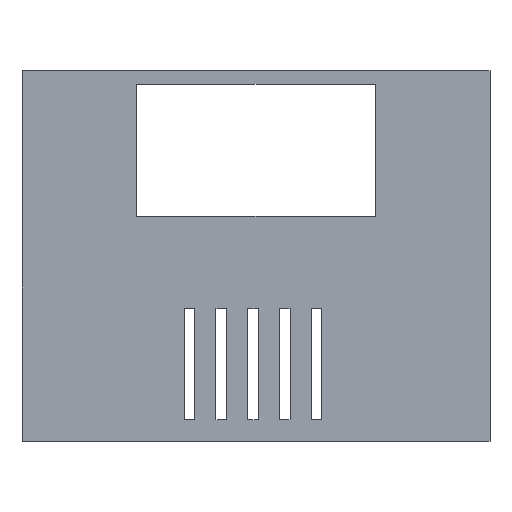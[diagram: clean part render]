
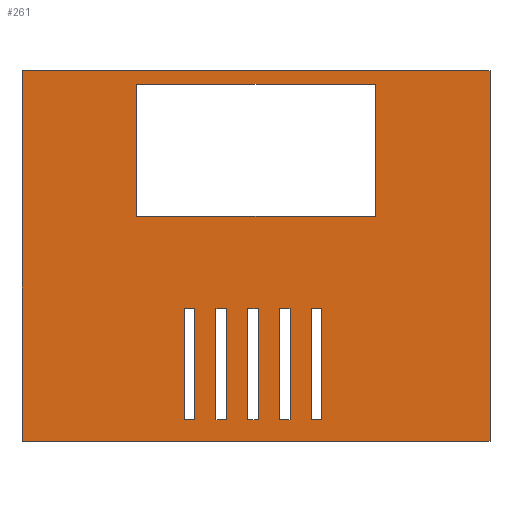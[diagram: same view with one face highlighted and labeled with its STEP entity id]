
A CAD part, top view. The second image highlights one B-rep face of the part: STEP entity #261.
In plain terms, the highlighted planar face has unit normal (0, 0, 1).
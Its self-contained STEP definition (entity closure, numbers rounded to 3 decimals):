
#61 = EDGE_CURVE('',#62,#64,#66,.T.);
#62 = VERTEX_POINT('',#63);
#63 = CARTESIAN_POINT('',(2.,21.,23.));
#64 = VERTEX_POINT('',#65);
#65 = CARTESIAN_POINT('',(2.,161.,23.));
#66 = LINE('',#67,#68);
#67 = CARTESIAN_POINT('',(2.,21.,23.));
#68 = VECTOR('',#69,1.);
#69 = DIRECTION('',(-0.,1.,0.));
#114 = EDGE_CURVE('',#64,#115,#117,.T.);
#115 = VERTEX_POINT('',#116);
#116 = CARTESIAN_POINT('',(178.9,161.,23.));
#117 = LINE('',#118,#119);
#118 = CARTESIAN_POINT('',(2.,161.,23.));
#119 = VECTOR('',#120,1.);
#120 = DIRECTION('',(1.,0.,-0.));
#244 = VERTEX_POINT('',#245);
#245 = CARTESIAN_POINT('',(178.9,21.,23.));
#251 = EDGE_CURVE('',#62,#244,#252,.T.);
#252 = LINE('',#253,#254);
#253 = CARTESIAN_POINT('',(2.,21.,23.));
#254 = VECTOR('',#255,1.);
#255 = DIRECTION('',(1.,0.,-0.));
#261 = ADVANCED_FACE('',(#262,#273,#307,#341,#375,#409,#443),#477,.T.);
#262 = FACE_BOUND('',#263,.T.);
#263 = EDGE_LOOP('',(#264,#265,#266,#272));
#264 = ORIENTED_EDGE('',*,*,#61,.F.);
#265 = ORIENTED_EDGE('',*,*,#251,.T.);
#266 = ORIENTED_EDGE('',*,*,#267,.T.);
#267 = EDGE_CURVE('',#244,#115,#268,.T.);
#268 = LINE('',#269,#270);
#269 = CARTESIAN_POINT('',(178.9,21.,23.));
#270 = VECTOR('',#271,1.);
#271 = DIRECTION('',(-0.,1.,0.));
#272 = ORIENTED_EDGE('',*,*,#114,.F.);
#273 = FACE_BOUND('',#274,.T.);
#274 = EDGE_LOOP('',(#275,#285,#293,#301));
#275 = ORIENTED_EDGE('',*,*,#276,.T.);
#276 = EDGE_CURVE('',#277,#279,#281,.T.);
#277 = VERTEX_POINT('',#278);
#278 = CARTESIAN_POINT('',(67.315,29.,23.));
#279 = VERTEX_POINT('',#280);
#280 = CARTESIAN_POINT('',(63.315,29.,23.));
#281 = LINE('',#282,#283);
#282 = CARTESIAN_POINT('',(32.658,29.,23.));
#283 = VECTOR('',#284,1.);
#284 = DIRECTION('',(-1.,-0.,0.));
#285 = ORIENTED_EDGE('',*,*,#286,.T.);
#286 = EDGE_CURVE('',#279,#287,#289,.T.);
#287 = VERTEX_POINT('',#288);
#288 = CARTESIAN_POINT('',(63.315,71.,23.));
#289 = LINE('',#290,#291);
#290 = CARTESIAN_POINT('',(63.315,25.,23.));
#291 = VECTOR('',#292,1.);
#292 = DIRECTION('',(-0.,1.,0.));
#293 = ORIENTED_EDGE('',*,*,#294,.F.);
#294 = EDGE_CURVE('',#295,#287,#297,.T.);
#295 = VERTEX_POINT('',#296);
#296 = CARTESIAN_POINT('',(67.315,71.,23.));
#297 = LINE('',#298,#299);
#298 = CARTESIAN_POINT('',(32.658,71.,23.));
#299 = VECTOR('',#300,1.);
#300 = DIRECTION('',(-1.,-0.,0.));
#301 = ORIENTED_EDGE('',*,*,#302,.F.);
#302 = EDGE_CURVE('',#277,#295,#303,.T.);
#303 = LINE('',#304,#305);
#304 = CARTESIAN_POINT('',(67.315,25.,23.));
#305 = VECTOR('',#306,1.);
#306 = DIRECTION('',(-0.,1.,0.));
#307 = FACE_BOUND('',#308,.T.);
#308 = EDGE_LOOP('',(#309,#319,#327,#335));
#309 = ORIENTED_EDGE('',*,*,#310,.T.);
#310 = EDGE_CURVE('',#311,#313,#315,.T.);
#311 = VERTEX_POINT('',#312);
#312 = CARTESIAN_POINT('',(79.315,29.,23.));
#313 = VERTEX_POINT('',#314);
#314 = CARTESIAN_POINT('',(75.315,29.,23.));
#315 = LINE('',#316,#317);
#316 = CARTESIAN_POINT('',(38.658,29.,23.));
#317 = VECTOR('',#318,1.);
#318 = DIRECTION('',(-1.,-0.,0.));
#319 = ORIENTED_EDGE('',*,*,#320,.T.);
#320 = EDGE_CURVE('',#313,#321,#323,.T.);
#321 = VERTEX_POINT('',#322);
#322 = CARTESIAN_POINT('',(75.315,71.,23.));
#323 = LINE('',#324,#325);
#324 = CARTESIAN_POINT('',(75.315,25.,23.));
#325 = VECTOR('',#326,1.);
#326 = DIRECTION('',(-0.,1.,0.));
#327 = ORIENTED_EDGE('',*,*,#328,.F.);
#328 = EDGE_CURVE('',#329,#321,#331,.T.);
#329 = VERTEX_POINT('',#330);
#330 = CARTESIAN_POINT('',(79.315,71.,23.));
#331 = LINE('',#332,#333);
#332 = CARTESIAN_POINT('',(38.658,71.,23.));
#333 = VECTOR('',#334,1.);
#334 = DIRECTION('',(-1.,-0.,0.));
#335 = ORIENTED_EDGE('',*,*,#336,.F.);
#336 = EDGE_CURVE('',#311,#329,#337,.T.);
#337 = LINE('',#338,#339);
#338 = CARTESIAN_POINT('',(79.315,25.,23.));
#339 = VECTOR('',#340,1.);
#340 = DIRECTION('',(-0.,1.,0.));
#341 = FACE_BOUND('',#342,.T.);
#342 = EDGE_LOOP('',(#343,#353,#361,#369));
#343 = ORIENTED_EDGE('',*,*,#344,.T.);
#344 = EDGE_CURVE('',#345,#347,#349,.T.);
#345 = VERTEX_POINT('',#346);
#346 = CARTESIAN_POINT('',(91.315,29.,23.));
#347 = VERTEX_POINT('',#348);
#348 = CARTESIAN_POINT('',(87.315,29.,23.));
#349 = LINE('',#350,#351);
#350 = CARTESIAN_POINT('',(44.658,29.,23.));
#351 = VECTOR('',#352,1.);
#352 = DIRECTION('',(-1.,-0.,0.));
#353 = ORIENTED_EDGE('',*,*,#354,.T.);
#354 = EDGE_CURVE('',#347,#355,#357,.T.);
#355 = VERTEX_POINT('',#356);
#356 = CARTESIAN_POINT('',(87.315,71.,23.));
#357 = LINE('',#358,#359);
#358 = CARTESIAN_POINT('',(87.315,25.,23.));
#359 = VECTOR('',#360,1.);
#360 = DIRECTION('',(-0.,1.,0.));
#361 = ORIENTED_EDGE('',*,*,#362,.F.);
#362 = EDGE_CURVE('',#363,#355,#365,.T.);
#363 = VERTEX_POINT('',#364);
#364 = CARTESIAN_POINT('',(91.315,71.,23.));
#365 = LINE('',#366,#367);
#366 = CARTESIAN_POINT('',(44.658,71.,23.));
#367 = VECTOR('',#368,1.);
#368 = DIRECTION('',(-1.,-0.,0.));
#369 = ORIENTED_EDGE('',*,*,#370,.F.);
#370 = EDGE_CURVE('',#345,#363,#371,.T.);
#371 = LINE('',#372,#373);
#372 = CARTESIAN_POINT('',(91.315,25.,23.));
#373 = VECTOR('',#374,1.);
#374 = DIRECTION('',(-0.,1.,0.));
#375 = FACE_BOUND('',#376,.T.);
#376 = EDGE_LOOP('',(#377,#387,#395,#403));
#377 = ORIENTED_EDGE('',*,*,#378,.T.);
#378 = EDGE_CURVE('',#379,#381,#383,.T.);
#379 = VERTEX_POINT('',#380);
#380 = CARTESIAN_POINT('',(103.315,29.,23.));
#381 = VERTEX_POINT('',#382);
#382 = CARTESIAN_POINT('',(99.315,29.,23.));
#383 = LINE('',#384,#385);
#384 = CARTESIAN_POINT('',(50.658,29.,23.));
#385 = VECTOR('',#386,1.);
#386 = DIRECTION('',(-1.,-0.,0.));
#387 = ORIENTED_EDGE('',*,*,#388,.T.);
#388 = EDGE_CURVE('',#381,#389,#391,.T.);
#389 = VERTEX_POINT('',#390);
#390 = CARTESIAN_POINT('',(99.315,71.,23.));
#391 = LINE('',#392,#393);
#392 = CARTESIAN_POINT('',(99.315,25.,23.));
#393 = VECTOR('',#394,1.);
#394 = DIRECTION('',(-0.,1.,0.));
#395 = ORIENTED_EDGE('',*,*,#396,.F.);
#396 = EDGE_CURVE('',#397,#389,#399,.T.);
#397 = VERTEX_POINT('',#398);
#398 = CARTESIAN_POINT('',(103.315,71.,23.));
#399 = LINE('',#400,#401);
#400 = CARTESIAN_POINT('',(50.658,71.,23.));
#401 = VECTOR('',#402,1.);
#402 = DIRECTION('',(-1.,-0.,0.));
#403 = ORIENTED_EDGE('',*,*,#404,.F.);
#404 = EDGE_CURVE('',#379,#397,#405,.T.);
#405 = LINE('',#406,#407);
#406 = CARTESIAN_POINT('',(103.315,25.,23.));
#407 = VECTOR('',#408,1.);
#408 = DIRECTION('',(-0.,1.,0.));
#409 = FACE_BOUND('',#410,.T.);
#410 = EDGE_LOOP('',(#411,#421,#429,#437));
#411 = ORIENTED_EDGE('',*,*,#412,.T.);
#412 = EDGE_CURVE('',#413,#415,#417,.T.);
#413 = VERTEX_POINT('',#414);
#414 = CARTESIAN_POINT('',(115.315,29.,23.));
#415 = VERTEX_POINT('',#416);
#416 = CARTESIAN_POINT('',(111.315,29.,23.));
#417 = LINE('',#418,#419);
#418 = CARTESIAN_POINT('',(56.658,29.,23.));
#419 = VECTOR('',#420,1.);
#420 = DIRECTION('',(-1.,-0.,0.));
#421 = ORIENTED_EDGE('',*,*,#422,.T.);
#422 = EDGE_CURVE('',#415,#423,#425,.T.);
#423 = VERTEX_POINT('',#424);
#424 = CARTESIAN_POINT('',(111.315,71.,23.));
#425 = LINE('',#426,#427);
#426 = CARTESIAN_POINT('',(111.315,25.,23.));
#427 = VECTOR('',#428,1.);
#428 = DIRECTION('',(-0.,1.,0.));
#429 = ORIENTED_EDGE('',*,*,#430,.F.);
#430 = EDGE_CURVE('',#431,#423,#433,.T.);
#431 = VERTEX_POINT('',#432);
#432 = CARTESIAN_POINT('',(115.315,71.,23.));
#433 = LINE('',#434,#435);
#434 = CARTESIAN_POINT('',(56.658,71.,23.));
#435 = VECTOR('',#436,1.);
#436 = DIRECTION('',(-1.,-0.,0.));
#437 = ORIENTED_EDGE('',*,*,#438,.F.);
#438 = EDGE_CURVE('',#413,#431,#439,.T.);
#439 = LINE('',#440,#441);
#440 = CARTESIAN_POINT('',(115.315,25.,23.));
#441 = VECTOR('',#442,1.);
#442 = DIRECTION('',(-0.,1.,0.));
#443 = FACE_BOUND('',#444,.T.);
#444 = EDGE_LOOP('',(#445,#455,#463,#471));
#445 = ORIENTED_EDGE('',*,*,#446,.T.);
#446 = EDGE_CURVE('',#447,#449,#451,.T.);
#447 = VERTEX_POINT('',#448);
#448 = CARTESIAN_POINT('',(135.45,106.,23.));
#449 = VERTEX_POINT('',#450);
#450 = CARTESIAN_POINT('',(45.45,106.,23.));
#451 = LINE('',#452,#453);
#452 = CARTESIAN_POINT('',(23.725,106.,23.));
#453 = VECTOR('',#454,1.);
#454 = DIRECTION('',(-1.,-0.,0.));
#455 = ORIENTED_EDGE('',*,*,#456,.T.);
#456 = EDGE_CURVE('',#449,#457,#459,.T.);
#457 = VERTEX_POINT('',#458);
#458 = CARTESIAN_POINT('',(45.45,156.,23.));
#459 = LINE('',#460,#461);
#460 = CARTESIAN_POINT('',(45.45,63.5,23.));
#461 = VECTOR('',#462,1.);
#462 = DIRECTION('',(-0.,1.,0.));
#463 = ORIENTED_EDGE('',*,*,#464,.F.);
#464 = EDGE_CURVE('',#465,#457,#467,.T.);
#465 = VERTEX_POINT('',#466);
#466 = CARTESIAN_POINT('',(135.45,156.,23.));
#467 = LINE('',#468,#469);
#468 = CARTESIAN_POINT('',(23.725,156.,23.));
#469 = VECTOR('',#470,1.);
#470 = DIRECTION('',(-1.,-0.,0.));
#471 = ORIENTED_EDGE('',*,*,#472,.F.);
#472 = EDGE_CURVE('',#447,#465,#473,.T.);
#473 = LINE('',#474,#475);
#474 = CARTESIAN_POINT('',(135.45,63.5,23.));
#475 = VECTOR('',#476,1.);
#476 = DIRECTION('',(-0.,1.,0.));
#477 = PLANE('',#478);
#478 = AXIS2_PLACEMENT_3D('',#479,#480,#481);
#479 = CARTESIAN_POINT('',(2.,21.,23.));
#480 = DIRECTION('',(0.,0.,1.));
#481 = DIRECTION('',(1.,0.,-0.));
